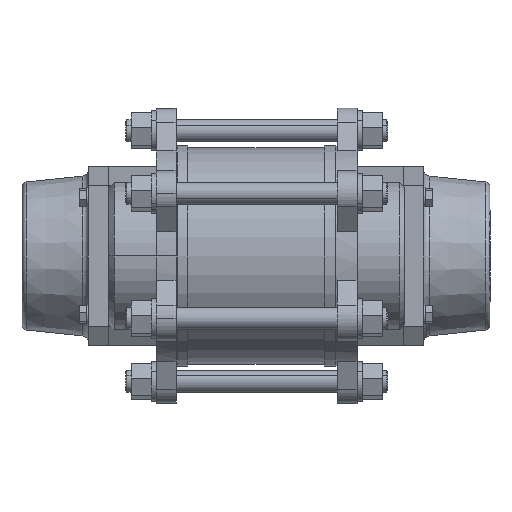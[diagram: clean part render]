
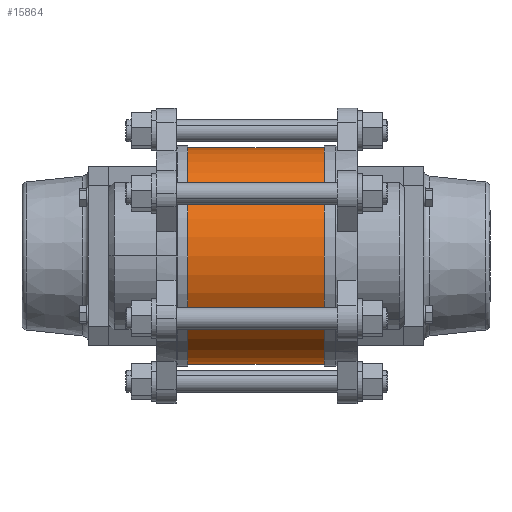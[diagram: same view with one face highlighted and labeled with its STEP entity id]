
A CAD part, front view. The second image highlights one B-rep face of the part: STEP entity #15864.
In plain terms, the highlighted cylindrical face has radius 84.5 mm (diameter 169 mm), a partial arc.
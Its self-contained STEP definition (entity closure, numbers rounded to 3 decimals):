
#1812 = ORIENTED_EDGE ( 'NONE', *, *, #15645, .F. ) ;
#1813 = ORIENTED_EDGE ( 'NONE', *, *, #15642, .T. ) ;
#1814 = ORIENTED_EDGE ( 'NONE', *, *, #15641, .T. ) ;
#1815 = ORIENTED_EDGE ( 'NONE', *, *, #15640, .F. ) ;
#2195 = CIRCLE ( 'NONE', #2204, 84.5 ) ;
#2203 = VECTOR ( 'NONE', #13979, 1000. ) ;
#2204 = AXIS2_PLACEMENT_3D ( 'NONE', #13975, #13976, #13977 ) ;
#2213 = CIRCLE ( 'NONE', #2214, 84.5 ) ;
#2214 = AXIS2_PLACEMENT_3D ( 'NONE', #13981, #13982, #13983 ) ;
#2222 = VECTOR ( 'NONE', #13991, 1000. ) ;
#9201 = EDGE_LOOP ( 'NONE', ( #1812, #1813, #1814, #1815 ) ) ;
#9450 = VERTEX_POINT ( 'NONE', #11355 ) ;
#9452 = VERTEX_POINT ( 'NONE', #11356 ) ;
#9458 = VERTEX_POINT ( 'NONE', #11360 ) ;
#9547 = VERTEX_POINT ( 'NONE', #11411 ) ;
#10260 = AXIS2_PLACEMENT_3D ( 'NONE', #15083, #15079, #15085 ) ;
#11355 = CARTESIAN_POINT ( 'NONE',  ( -53.5, 0., -84.5 ) ) ;
#11356 = CARTESIAN_POINT ( 'NONE',  ( 53.5, 0., 84.5 ) ) ;
#11360 = CARTESIAN_POINT ( 'NONE',  ( -53.5, 0., 84.5 ) ) ;
#11411 = CARTESIAN_POINT ( 'NONE',  ( 53.5, 0., -84.5 ) ) ;
#13968 = LINE ( 'NONE', #13969, #2203 ) ;
#13969 = CARTESIAN_POINT ( 'NONE',  ( -62.5, 0., -84.5 ) ) ;
#13975 = CARTESIAN_POINT ( 'NONE',  ( 53.5, 0., 0. ) ) ;
#13976 = DIRECTION ( 'NONE',  ( 1., 0., 0. ) ) ;
#13977 = DIRECTION ( 'NONE',  ( 0., 0., -1. ) ) ;
#13979 = DIRECTION ( 'NONE',  ( 1., 0., 0. ) ) ;
#13980 = CARTESIAN_POINT ( 'NONE',  ( -62.5, 0., 84.5 ) ) ;
#13981 = CARTESIAN_POINT ( 'NONE',  ( -53.5, 0., 0. ) ) ;
#13982 = DIRECTION ( 'NONE',  ( 1., 0., 0. ) ) ;
#13983 = DIRECTION ( 'NONE',  ( 0., 0., 1. ) ) ;
#13984 = LINE ( 'NONE', #13980, #2222 ) ;
#13991 = DIRECTION ( 'NONE',  ( 1., 0., 0. ) ) ;
#15079 = DIRECTION ( 'NONE',  ( 1., 0., 0. ) ) ;
#15081 = CYLINDRICAL_SURFACE ( 'NONE', #10260, 84.5 ) ;
#15082 = FACE_OUTER_BOUND ( 'NONE', #9201, .T. ) ;
#15083 = CARTESIAN_POINT ( 'NONE',  ( -62.5, 0., 0. ) ) ;
#15085 = DIRECTION ( 'NONE',  ( 0., 0., -1. ) ) ;
#15640 = EDGE_CURVE ( 'NONE', #9452, #9547, #2195, .T. ) ;
#15641 = EDGE_CURVE ( 'NONE', #9450, #9547, #13968, .T. ) ;
#15642 = EDGE_CURVE ( 'NONE', #9458, #9450, #2213, .T. ) ;
#15645 = EDGE_CURVE ( 'NONE', #9458, #9452, #13984, .T. ) ;
#15864 = ADVANCED_FACE ( 'NONE', ( #15082 ), #15081, .T. ) ;
